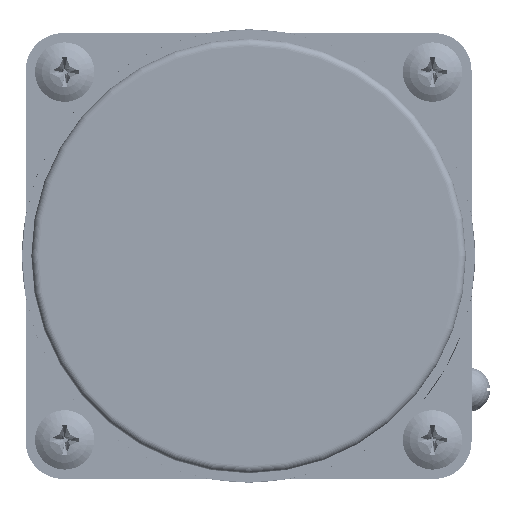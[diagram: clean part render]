
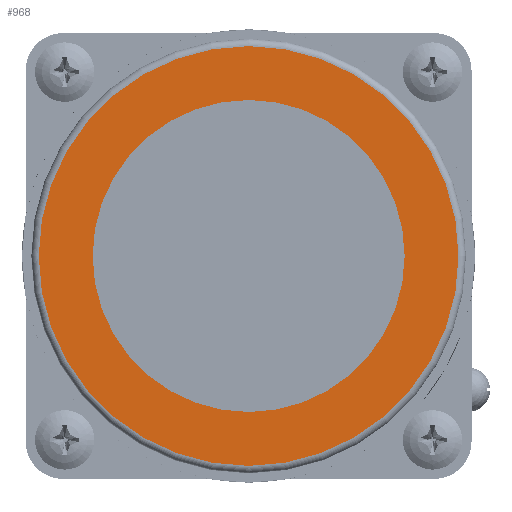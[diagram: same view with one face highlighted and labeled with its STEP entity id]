
A CAD part, left-side view. The second image highlights one B-rep face of the part: STEP entity #968.
In plain terms, the highlighted planar face has unit normal (-1, 0, 0).
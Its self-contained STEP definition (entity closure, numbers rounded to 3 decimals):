
#968=ADVANCED_FACE('',(#1364,#1365),#1243,.T.);
#1243=PLANE('',#4830);
#1364=FACE_BOUND('',#1548,.T.);
#1365=FACE_BOUND('',#1549,.T.);
#1548=EDGE_LOOP('',(#1973));
#1549=EDGE_LOOP('',(#1974));
#1973=ORIENTED_EDGE('',*,*,#3570,.T.);
#1974=ORIENTED_EDGE('',*,*,#3571,.T.);
#3130=VERTEX_POINT('',#6319);
#3131=VERTEX_POINT('',#6321);
#3570=EDGE_CURVE('',#3130,#3130,#4499,.T.);
#3571=EDGE_CURVE('',#3131,#3131,#4500,.T.);
#4499=CIRCLE('',#4828,28.25);
#4500=CIRCLE('',#4829,21.);
#4828=AXIS2_PLACEMENT_3D('',#6318,#5337,#5338);
#4829=AXIS2_PLACEMENT_3D('',#6320,#5339,#5340);
#4830=AXIS2_PLACEMENT_3D('',#6322,#5341,#5342);
#5337=DIRECTION('',(-1.,0.,0.));
#5338=DIRECTION('',(0.,-1.,0.));
#5339=DIRECTION('',(1.,0.,0.));
#5340=DIRECTION('',(0.,1.,0.));
#5341=DIRECTION('',(-1.,0.,0.));
#5342=DIRECTION('',(0.,-1.,0.));
#6318=CARTESIAN_POINT('',(-75.,0.,0.));
#6319=CARTESIAN_POINT('',(-75.,-28.25,0.));
#6320=CARTESIAN_POINT('',(-75.,0.,0.));
#6321=CARTESIAN_POINT('',(-75.,21.,0.));
#6322=CARTESIAN_POINT('',(-75.,0.,0.));
